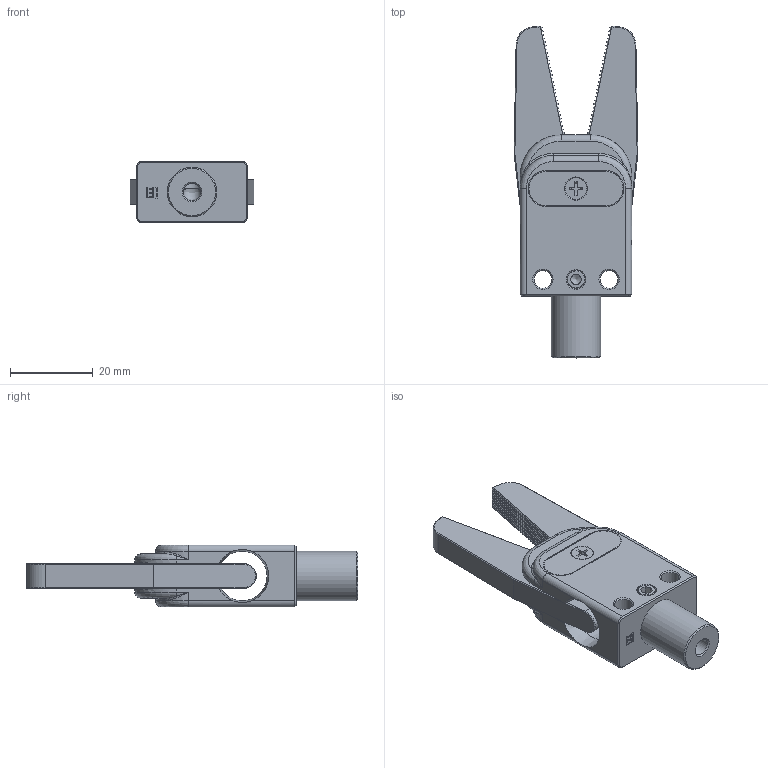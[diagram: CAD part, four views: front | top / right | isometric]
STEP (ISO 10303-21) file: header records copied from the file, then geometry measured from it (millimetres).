
FILE_DESCRIPTION(/* description */ (''),/* implementation_level */ '2;1');
FILE_NAME(/* name */ 'GR12M-12.stp',/* time_stamp */ '2023-03-08T13:51:09+08:00',/* author */ (''),/* organization */ (''),/* preprocessor_version */ 'ST-DEVELOPER v16',/* originating_system */ 'SIEMENS PLM Software NX 10.0',/* authorisation */ '');
FILE_SCHEMA (('AUTOMOTIVE_DESIGN { 1 0 10303 214 3 1 1 1 }'));
Length unit declared in the file: millimetre
Products named in the file (1): Admi115498B06j0q
Bounding box: 30 x 80.35 x 15 mm (x, y, z)
Volume: 15456.6 mm3; surface area: 8277.8 mm2
Topology: 1 solids, 12 shells, 1424 faces, 4072 edges, 2674 vertices
Faces by surface type: plane 1272, cone 63, cylinder 60, bspline 16, revolution 13
Full cylindrical faces by diameter (mm): 2.2 x2, 2.5 x1, 3 x3, 3.5 x1, 4.2 x2, 4.3 x2, 5.2 x1, 12 x2
Entity records: 55502 total; most frequent: CARTESIAN_POINT 8700, ORIENTED_EDGE 8014, DIRECTION 6977, EDGE_CURVE 4007, LINE 3712, VECTOR 3712, VERTEX_POINT 2653, AXIS2_PLACEMENT_3D 1626
